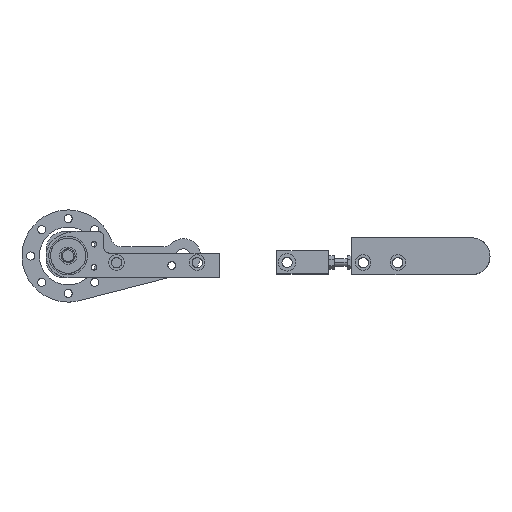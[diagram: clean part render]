
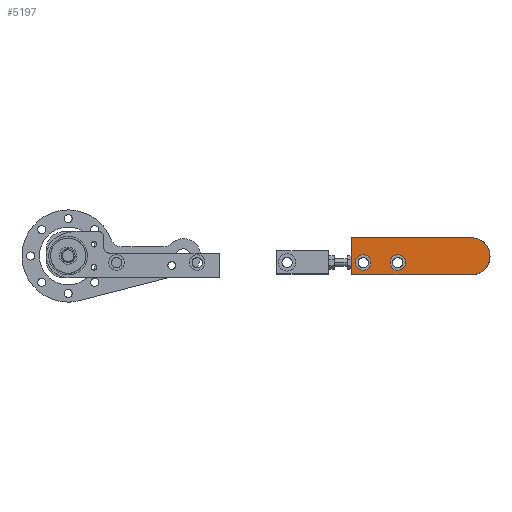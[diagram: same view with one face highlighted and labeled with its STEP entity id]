
A CAD part, top view. The second image highlights one B-rep face of the part: STEP entity #5197.
In plain terms, the highlighted planar face has unit normal (0, 0, 1) as drawn and (0, 0, -1) by its records, which use the part's own axes.
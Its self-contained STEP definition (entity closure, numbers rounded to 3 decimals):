
#156 = CARTESIAN_POINT ( 'NONE',  ( 104., -16., -5. ) ) ;
#744 = EDGE_LOOP ( 'NONE', ( #752, #17685 ) ) ;
#752 = ORIENTED_EDGE ( 'NONE', *, *, #13589, .F. ) ;
#847 = ORIENTED_EDGE ( 'NONE', *, *, #5666, .F. ) ;
#990 = FACE_BOUND ( 'NONE', #11161, .T. ) ;
#1146 = EDGE_CURVE ( 'NONE', #12213, #9862, #16351, .T. ) ;
#1325 = DIRECTION ( 'NONE',  ( 0., 0., -1. ) ) ;
#1468 = ORIENTED_EDGE ( 'NONE', *, *, #12022, .F. ) ;
#2070 = CARTESIAN_POINT ( 'NONE',  ( 0., 0., -5. ) ) ;
#2499 = VERTEX_POINT ( 'NONE', #7066 ) ;
#2620 = EDGE_CURVE ( 'NONE', #3300, #13591, #13258, .T. ) ;
#2847 = DIRECTION ( 'NONE',  ( 0., 0., -1. ) ) ;
#3300 = VERTEX_POINT ( 'NONE', #15961 ) ;
#3471 = DIRECTION ( 'NONE',  ( 0., 0., 1. ) ) ;
#4166 = CARTESIAN_POINT ( 'NONE',  ( 57.25, -5.5, -5. ) ) ;
#4370 = CIRCLE ( 'NONE', #4995, 16. ) ;
#4522 = DIRECTION ( 'NONE',  ( 0., 0., -1. ) ) ;
#4995 = AXIS2_PLACEMENT_3D ( 'NONE', #12060, #3471, #17829 ) ;
#5197 = ADVANCED_FACE ( 'NONE', ( #990, #5735, #10252 ), #13441, .F. ) ;
#5666 = EDGE_CURVE ( 'NONE', #18613, #7019, #4370, .T. ) ;
#5735 = FACE_OUTER_BOUND ( 'NONE', #16055, .T. ) ;
#5796 = ORIENTED_EDGE ( 'NONE', *, *, #16283, .F. ) ;
#5901 = AXIS2_PLACEMENT_3D ( 'NONE', #2070, #7868, #7597 ) ;
#6060 = AXIS2_PLACEMENT_3D ( 'NONE', #11982, #17565, #6287 ) ;
#6287 = DIRECTION ( 'NONE',  ( 1., 0., 0. ) ) ;
#6549 = CIRCLE ( 'NONE', #10281, 6.75 ) ;
#6605 = CIRCLE ( 'NONE', #5901, 16. ) ;
#6673 = VERTEX_POINT ( 'NONE', #14297 ) ;
#6987 = DIRECTION ( 'NONE',  ( -1., 0., 0. ) ) ;
#7019 = VERTEX_POINT ( 'NONE', #10775 ) ;
#7066 = CARTESIAN_POINT ( 'NONE',  ( 87.25, -5.5, -5. ) ) ;
#7111 = CARTESIAN_POINT ( 'NONE',  ( 94., -5.5, -5. ) ) ;
#7442 = VECTOR ( 'NONE', #13426, 1000. ) ;
#7597 = DIRECTION ( 'NONE',  ( 1., 0., 0. ) ) ;
#7676 = DIRECTION ( 'NONE',  ( -1., 0., 0. ) ) ;
#7868 = DIRECTION ( 'NONE',  ( 0., 0., 1. ) ) ;
#8714 = VECTOR ( 'NONE', #15779, 1000. ) ;
#9169 = CARTESIAN_POINT ( 'NONE',  ( 104., -16., -5. ) ) ;
#9245 = CIRCLE ( 'NONE', #15977, 6.75 ) ;
#9862 = VERTEX_POINT ( 'NONE', #16435 ) ;
#9910 = CARTESIAN_POINT ( 'NONE',  ( 64., -5.5, -5. ) ) ;
#10252 = FACE_BOUND ( 'NONE', #744, .T. ) ;
#10281 = AXIS2_PLACEMENT_3D ( 'NONE', #9910, #16966, #12616 ) ;
#10592 = CARTESIAN_POINT ( 'NONE',  ( 0., 16., -5. ) ) ;
#10766 = ORIENTED_EDGE ( 'NONE', *, *, #16700, .F. ) ;
#10775 = CARTESIAN_POINT ( 'NONE',  ( -16., 0., -5. ) ) ;
#11156 = CARTESIAN_POINT ( 'NONE',  ( 0., -16., -5. ) ) ;
#11161 = EDGE_LOOP ( 'NONE', ( #10766, #12487 ) ) ;
#11453 = AXIS2_PLACEMENT_3D ( 'NONE', #15484, #2847, #11754 ) ;
#11510 = LINE ( 'NONE', #9169, #7442 ) ;
#11754 = DIRECTION ( 'NONE',  ( -1., 0., 0. ) ) ;
#11982 = CARTESIAN_POINT ( 'NONE',  ( 0., 0., -5. ) ) ;
#12022 = EDGE_CURVE ( 'NONE', #7019, #12688, #6605, .T. ) ;
#12060 = CARTESIAN_POINT ( 'NONE',  ( 0., 0., -5. ) ) ;
#12213 = VERTEX_POINT ( 'NONE', #156 ) ;
#12487 = ORIENTED_EDGE ( 'NONE', *, *, #15901, .F. ) ;
#12606 = ORIENTED_EDGE ( 'NONE', *, *, #1146, .F. ) ;
#12616 = DIRECTION ( 'NONE',  ( -1., 0., 0. ) ) ;
#12688 = VERTEX_POINT ( 'NONE', #11156 ) ;
#13061 = CARTESIAN_POINT ( 'NONE',  ( 0., 16., -5. ) ) ;
#13123 = CARTESIAN_POINT ( 'NONE',  ( 94., -5.5, -5. ) ) ;
#13258 = CIRCLE ( 'NONE', #11453, 6.75 ) ;
#13426 = DIRECTION ( 'NONE',  ( 1., 0., 0. ) ) ;
#13441 = PLANE ( 'NONE',  #6060 ) ;
#13589 = EDGE_CURVE ( 'NONE', #13591, #3300, #6549, .T. ) ;
#13591 = VERTEX_POINT ( 'NONE', #4166 ) ;
#13918 = AXIS2_PLACEMENT_3D ( 'NONE', #13123, #4522, #14572 ) ;
#14287 = CARTESIAN_POINT ( 'NONE',  ( 104., 16., -5. ) ) ;
#14297 = CARTESIAN_POINT ( 'NONE',  ( 100.75, -5.5, -5. ) ) ;
#14572 = DIRECTION ( 'NONE',  ( -1., 0., 0. ) ) ;
#14907 = VECTOR ( 'NONE', #7676, 1000. ) ;
#15484 = CARTESIAN_POINT ( 'NONE',  ( 64., -5.5, -5. ) ) ;
#15779 = DIRECTION ( 'NONE',  ( 0., 1., 0. ) ) ;
#15811 = LINE ( 'NONE', #10592, #14907 ) ;
#15901 = EDGE_CURVE ( 'NONE', #6673, #2499, #17103, .T. ) ;
#15961 = CARTESIAN_POINT ( 'NONE',  ( 70.75, -5.5, -5. ) ) ;
#15977 = AXIS2_PLACEMENT_3D ( 'NONE', #7111, #1325, #6987 ) ;
#16055 = EDGE_LOOP ( 'NONE', ( #847, #16362, #12606, #5796, #1468 ) ) ;
#16283 = EDGE_CURVE ( 'NONE', #12688, #12213, #11510, .T. ) ;
#16351 = LINE ( 'NONE', #14287, #8714 ) ;
#16362 = ORIENTED_EDGE ( 'NONE', *, *, #16861, .F. ) ;
#16435 = CARTESIAN_POINT ( 'NONE',  ( 104., 16., -5. ) ) ;
#16700 = EDGE_CURVE ( 'NONE', #2499, #6673, #9245, .T. ) ;
#16861 = EDGE_CURVE ( 'NONE', #9862, #18613, #15811, .T. ) ;
#16966 = DIRECTION ( 'NONE',  ( 0., 0., -1. ) ) ;
#17103 = CIRCLE ( 'NONE', #13918, 6.75 ) ;
#17565 = DIRECTION ( 'NONE',  ( 0., 0., 1. ) ) ;
#17685 = ORIENTED_EDGE ( 'NONE', *, *, #2620, .F. ) ;
#17829 = DIRECTION ( 'NONE',  ( 1., 0., 0. ) ) ;
#18613 = VERTEX_POINT ( 'NONE', #13061 ) ;
